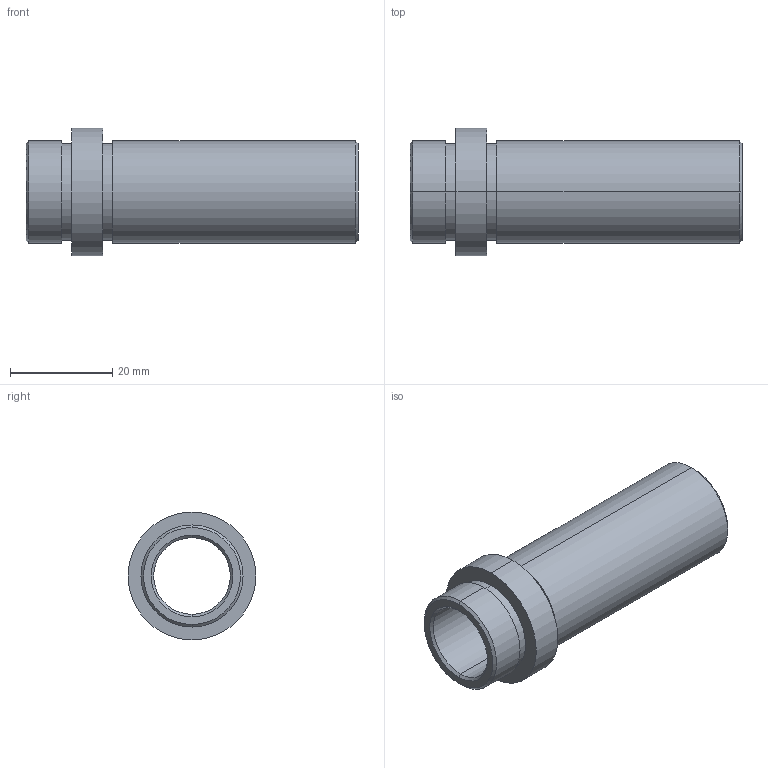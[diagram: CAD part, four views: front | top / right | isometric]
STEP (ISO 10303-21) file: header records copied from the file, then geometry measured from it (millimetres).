
FILE_DESCRIPTION (( 'STEP AP214' ), '1' );
FILE_NAME ('D21_15x56.step', '2011-12-28T19:24:56', ( 'Dell' ), ( '' ), 'SwSTEP 2.0', 'SolidWorks 2010', '' );
FILE_SCHEMA (( 'AUTOMOTIVE_DESIGN' ));
Length unit declared in the file: millimetre
Products named in the file (1): D21_15x56
Bounding box: 65 x 25 x 25 mm (x, y, z)
Volume: 9844.2 mm3; surface area: 7915.2 mm2
Topology: 1 solids, 1 shells, 26 faces, 52 edges, 32 vertices
Faces by surface type: cylinder 12, cone 8, plane 6
Entity records: 722 total; most frequent: DIRECTION 138, CARTESIAN_POINT 111, ORIENTED_EDGE 104, AXIS2_PLACEMENT_3D 59, EDGE_CURVE 52, EDGE_LOOP 32, VERTEX_POINT 32, CIRCLE 32
